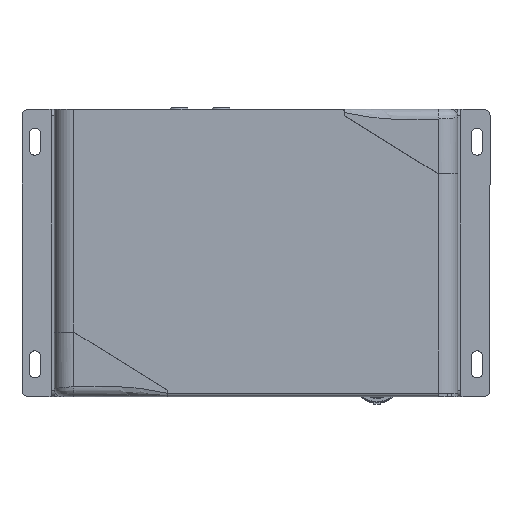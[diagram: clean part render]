
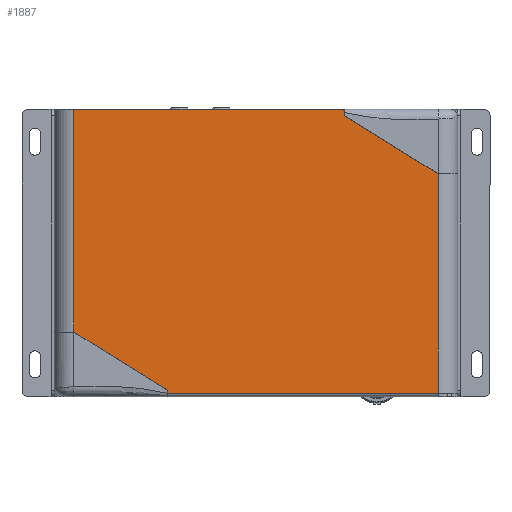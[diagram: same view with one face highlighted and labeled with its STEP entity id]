
A CAD part, top view. The second image highlights one B-rep face of the part: STEP entity #1887.
In plain terms, the highlighted planar face has unit normal (0, 0, 1).
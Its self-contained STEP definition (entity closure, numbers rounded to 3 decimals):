
#1887 = ADVANCED_FACE ( 'NONE', ( #42597 ), #82847, .F. ) ;
#5331 = LINE ( 'NONE', #45550, #69997 ) ;
#6646 = LINE ( 'NONE', #46855, #84008 ) ;
#7146 = VECTOR ( 'NONE', #49810, 1000. ) ;
#9566 = CARTESIAN_POINT ( 'NONE',  ( 0., -25.05, 0. ) ) ;
#11555 = LINE ( 'NONE', #51779, #55177 ) ;
#11635 = VECTOR ( 'NONE', #106607, 1000. ) ;
#13446 = DIRECTION ( 'NONE',  ( -1., 0., 0. ) ) ;
#14721 = DIRECTION ( 'NONE',  ( 1., 0., 0. ) ) ;
#15208 = DIRECTION ( 'NONE',  ( 0., 0., 1. ) ) ;
#15837 = VERTEX_POINT ( 'NONE', #100894 ) ;
#16787 = VERTEX_POINT ( 'NONE', #71318 ) ;
#18175 = EDGE_CURVE ( 'NONE', #53569, #16787, #5331, .T. ) ;
#18509 = CARTESIAN_POINT ( 'NONE',  ( 27.5, 42.95, 0. ) ) ;
#20341 = CARTESIAN_POINT ( 'NONE',  ( -27.005, -43.358, 0. ) ) ;
#22741 = CARTESIAN_POINT ( 'NONE',  ( -56.5, 43.95, 0. ) ) ;
#22841 = VECTOR ( 'NONE', #60581, 1000. ) ;
#25383 = LINE ( 'NONE', #65638, #108796 ) ;
#26052 = LINE ( 'NONE', #66314, #11635 ) ;
#31233 = ORIENTED_EDGE ( 'NONE', *, *, #98301, .T. ) ;
#31282 = CARTESIAN_POINT ( 'NONE',  ( -56.5, -25.05, 0. ) ) ;
#31581 = LINE ( 'NONE', #71816, #91659 ) ;
#32718 = DIRECTION ( 'NONE',  ( 0., 0., -1. ) ) ;
#34254 = EDGE_CURVE ( 'NONE', #63239, #108212, #64877, .T. ) ;
#36376 = VERTEX_POINT ( 'NONE', #31282 ) ;
#36424 = CARTESIAN_POINT ( 'NONE',  ( 56.5, -44.05, 0. ) ) ;
#38319 = ORIENTED_EDGE ( 'NONE', *, *, #57547, .T. ) ;
#40837 = CARTESIAN_POINT ( 'NONE',  ( 27.5, 41.95, 0. ) ) ;
#41772 = EDGE_CURVE ( 'NONE', #109092, #67263, #110736, .T. ) ;
#42597 = FACE_OUTER_BOUND ( 'NONE', #75637, .T. ) ;
#44888 = LINE ( 'NONE', #85137, #114782 ) ;
#45550 = CARTESIAN_POINT ( 'NONE',  ( 56.5, -44.05, 0. ) ) ;
#46299 = ORIENTED_EDGE ( 'NONE', *, *, #63761, .F. ) ;
#46490 = EDGE_CURVE ( 'NONE', #93319, #63239, #26052, .T. ) ;
#46664 = ORIENTED_EDGE ( 'NONE', *, *, #59938, .T. ) ;
#46855 = CARTESIAN_POINT ( 'NONE',  ( 56.5, -44.05, 0. ) ) ;
#47348 = EDGE_CURVE ( 'NONE', #69856, #77028, #115116, .T. ) ;
#49810 = DIRECTION ( 'NONE',  ( 1., 0., 0. ) ) ;
#51382 = ORIENTED_EDGE ( 'NONE', *, *, #61857, .T. ) ;
#51779 = CARTESIAN_POINT ( 'NONE',  ( 27.5, 41.95, 0. ) ) ;
#53569 = VERTEX_POINT ( 'NONE', #36424 ) ;
#55177 = VECTOR ( 'NONE', #92058, 1000. ) ;
#55427 = DIRECTION ( 'NONE',  ( -1., 0., 0. ) ) ;
#57547 = EDGE_CURVE ( 'NONE', #71958, #36376, #31581, .T. ) ;
#58101 = AXIS2_PLACEMENT_3D ( 'NONE', #105631, #15208, #55427 ) ;
#59938 = EDGE_CURVE ( 'NONE', #15837, #108212, #25383, .T. ) ;
#60581 = DIRECTION ( 'NONE',  ( 0.849, -0.529, 0. ) ) ;
#61857 = EDGE_CURVE ( 'NONE', #36376, #109092, #99974, .T. ) ;
#63239 = VERTEX_POINT ( 'NONE', #72812 ) ;
#63556 = LINE ( 'NONE', #103852, #127767 ) ;
#63761 = EDGE_CURVE ( 'NONE', #16787, #67263, #44888, .T. ) ;
#64877 = LINE ( 'NONE', #105160, #86939 ) ;
#65638 = CARTESIAN_POINT ( 'NONE',  ( 56.5, -43.95, 0. ) ) ;
#66314 = CARTESIAN_POINT ( 'NONE',  ( 27.5, 41.95, 0. ) ) ;
#67263 = VERTEX_POINT ( 'NONE', #67458 ) ;
#67458 = CARTESIAN_POINT ( 'NONE',  ( -27.5, -43.05, 0. ) ) ;
#69856 = VERTEX_POINT ( 'NONE', #18509 ) ;
#69997 = VECTOR ( 'NONE', #85803, 1000. ) ;
#70716 = CARTESIAN_POINT ( 'NONE',  ( -56.4, -25.05, 0. ) ) ;
#71318 = CARTESIAN_POINT ( 'NONE',  ( -27.5, -44.05, 0. ) ) ;
#71816 = CARTESIAN_POINT ( 'NONE',  ( -56.5, 43.95, 0. ) ) ;
#71958 = VERTEX_POINT ( 'NONE', #22741 ) ;
#72812 = CARTESIAN_POINT ( 'NONE',  ( 56.4, 23.95, 0. ) ) ;
#72974 = DIRECTION ( 'NONE',  ( -1., 0., 0. ) ) ;
#73374 = EDGE_CURVE ( 'NONE', #69856, #93319, #11555, .T. ) ;
#75637 = EDGE_LOOP ( 'NONE', ( #108488, #85906, #90797, #38319, #51382, #121419, #46299, #101369, #31233, #46664, #92560, #90538 ) ) ;
#77028 = VERTEX_POINT ( 'NONE', #92849 ) ;
#81172 = AXIS2_PLACEMENT_3D ( 'NONE', #123158, #32718, #72974 ) ;
#82847 = PLANE ( 'NONE',  #81172 ) ;
#84008 = VECTOR ( 'NONE', #87115, 1000. ) ;
#85137 = CARTESIAN_POINT ( 'NONE',  ( -27.5, -44.05, 0. ) ) ;
#85803 = DIRECTION ( 'NONE',  ( -1., 0., 0. ) ) ;
#85906 = ORIENTED_EDGE ( 'NONE', *, *, #47348, .T. ) ;
#86939 = VECTOR ( 'NONE', #14721, 1000. ) ;
#87115 = DIRECTION ( 'NONE',  ( 0., 1., 0. ) ) ;
#90538 = ORIENTED_EDGE ( 'NONE', *, *, #46490, .F. ) ;
#90797 = ORIENTED_EDGE ( 'NONE', *, *, #94439, .T. ) ;
#91659 = VECTOR ( 'NONE', #112104, 1000. ) ;
#92058 = DIRECTION ( 'NONE',  ( 0., -1., 0. ) ) ;
#92560 = ORIENTED_EDGE ( 'NONE', *, *, #34254, .F. ) ;
#92849 = CARTESIAN_POINT ( 'NONE',  ( 26.5, 43.95, 0. ) ) ;
#93319 = VERTEX_POINT ( 'NONE', #40837 ) ;
#94439 = EDGE_CURVE ( 'NONE', #77028, #71958, #63556, .T. ) ;
#98301 = EDGE_CURVE ( 'NONE', #53569, #15837, #6646, .T. ) ;
#98923 = CARTESIAN_POINT ( 'NONE',  ( 56.5, 23.95, 0. ) ) ;
#99974 = LINE ( 'NONE', #9566, #7146 ) ;
#100894 = CARTESIAN_POINT ( 'NONE',  ( 56.5, -43.95, 0. ) ) ;
#101369 = ORIENTED_EDGE ( 'NONE', *, *, #18175, .F. ) ;
#103852 = CARTESIAN_POINT ( 'NONE',  ( -62.5, 43.95, 0. ) ) ;
#105160 = CARTESIAN_POINT ( 'NONE',  ( 56.4, 23.95, 0. ) ) ;
#105631 = CARTESIAN_POINT ( 'NONE',  ( 26.5, 42.95, 0. ) ) ;
#105924 = DIRECTION ( 'NONE',  ( 0., 1., 0. ) ) ;
#106607 = DIRECTION ( 'NONE',  ( 0.849, -0.529, 0. ) ) ;
#108212 = VERTEX_POINT ( 'NONE', #98923 ) ;
#108488 = ORIENTED_EDGE ( 'NONE', *, *, #73374, .F. ) ;
#108796 = VECTOR ( 'NONE', #105924, 1000. ) ;
#109092 = VERTEX_POINT ( 'NONE', #70716 ) ;
#110736 = LINE ( 'NONE', #20341, #22841 ) ;
#112104 = DIRECTION ( 'NONE',  ( 0., -1., 0. ) ) ;
#114782 = VECTOR ( 'NONE', #125462, 1000. ) ;
#115116 = CIRCLE ( 'NONE', #58101, 1. ) ;
#121419 = ORIENTED_EDGE ( 'NONE', *, *, #41772, .T. ) ;
#123158 = CARTESIAN_POINT ( 'NONE',  ( 0., 0., 0. ) ) ;
#125462 = DIRECTION ( 'NONE',  ( 0., 1., 0. ) ) ;
#127767 = VECTOR ( 'NONE', #13446, 1000. ) ;
